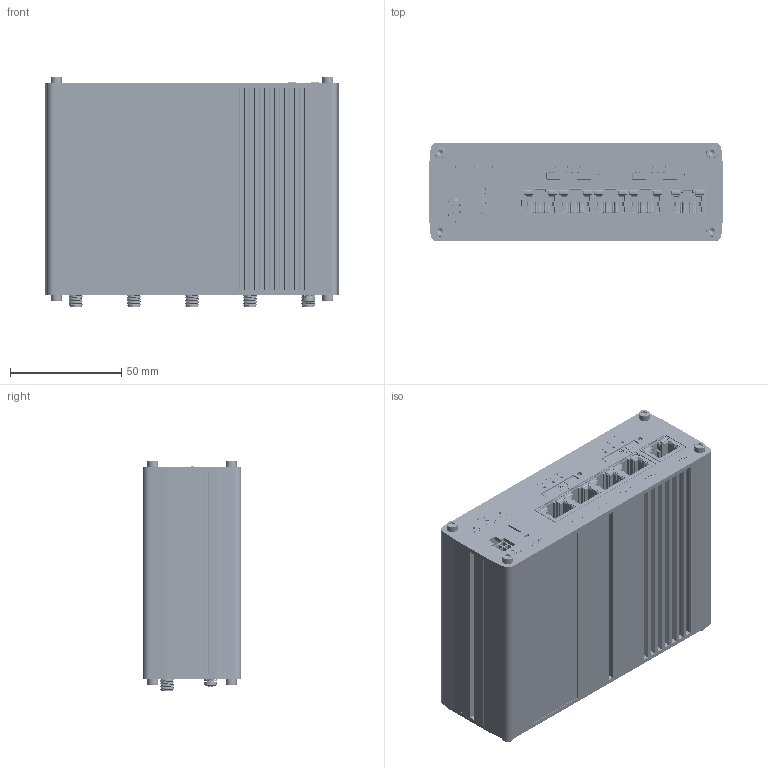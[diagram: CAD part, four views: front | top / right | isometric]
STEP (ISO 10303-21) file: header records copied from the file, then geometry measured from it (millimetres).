
FILE_DESCRIPTION (( 'STEP AP214' ), '1' );
FILE_NAME ('0297_RUTM59AMBKX_01.STEP', '2024-10-09T07:22:07', ( '' ), ( '' ), 'SwSTEP 2.0', 'SolidWorks 2024', '' );
FILE_SCHEMA (( 'AUTOMOTIVE_DESIGN' ));
Length unit declared in the file: millimetre
Products named in the file (11): 0193_ATRM50XX00X_01; RUTM59_MAIN_v4.1_3D_RUTM59_simplified; RUTM50_RF_v4.1_STEP_simplified; 0298_RUTM59PFBKX_01; DIN_7985_M3x10; 0299_RUTM59PRBKX_01_RUTM50_engraving; 0092_RTX12DHB0BCX_01; 0297_RUTM59AMBKX_01; DIN6798_M3; CH-CC-SC-1806214-1_3.03; 0090_RTX12DHT0BCX_01
Assembly tree (17 placements, depth 2):
  0297_RUTM59AMBKX_01
    0092_RTX12DHB0BCX_01
    0090_RTX12DHT0BCX_01
    0298_RUTM59PFBKX_01
    0299_RUTM59PRBKX_01_RUTM50_engraving
    DIN6798_M3
    DIN_7985_M3x10
    CH-CC-SC-1806214-1_3.03  x8
    0193_ATRM50XX00X_01
    RUTM59_MAIN_v4.1_3D_RUTM59_simplified
    RUTM50_RF_v4.1_STEP_simplified
Bounding box: 132 x 44.2 x 103.4 mm (x, y, z)
Volume: 184307.1 mm3; surface area: 193350.2 mm2
Topology: 112 solids, 115 shells, 13337 faces, 35933 edges, 23095 vertices
Faces by surface type: plane 7841, cylinder 3771, bspline 1495, torus 87, cone 76, sphere 67
Entity records: 604824 total; most frequent: CARTESIAN_POINT 159574, ORIENTED_EDGE 70540, DIRECTION 55909, EDGE_CURVE 35270, VERTEX_POINT 22770, VECTOR 22693, LINE 22693, AXIS2_PLACEMENT_3D 16608
